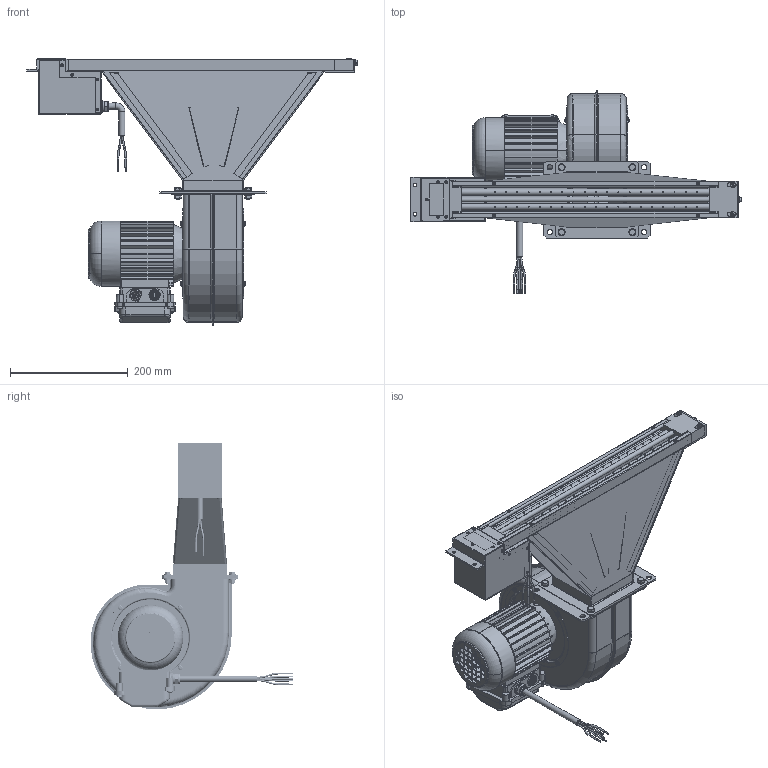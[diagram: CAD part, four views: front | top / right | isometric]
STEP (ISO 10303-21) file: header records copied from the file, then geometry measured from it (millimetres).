
FILE_DESCRIPTION(/* description */ (''),/* implementation_level */ '2;1');
FILE_NAME(/* name */ 'HP-N-EX',/* time_stamp */ '2014-11-04T11:47:27+01:00',/* author */ (''),/* organization */ (''),/* preprocessor_version */ 'ST-DEVELOPER v14',/* originating_system */ 'HiCAD 2012 1702.3 Build 686',/* authorisation */ '');
FILE_SCHEMA (('AUTOMOTIVE_DESIGN { 1 0 10303 214 1 1 1 1 }'));
Products named in the file (6): Root; -; P-SH-N-EX-STAAF_5; MB13SF
Assembly tree (5 placements, depth 3):
  Root
    -
    -
    P-SH-N-EX-STAAF_5
      MB13SF
      MB13SF
Bounding box: 560.5 x 344.34 x 452.85 mm (x, y, z)
Volume: 1166218 mm3; surface area: 1305380 mm2
Topology: 24 solids, 35 shells, 4324 faces, 11734 edges, 7179 vertices
Faces by surface type: cylinder 2066, plane 1710, torus 298, cone 215, sphere 31, bspline 4
Full cylindrical faces by diameter (mm): 1.4 x30, 1.45 x39, 2 x9, 2.387 x4, 3 x51, 3.141 x9, 3.5 x8, 4 x17, 4.019 x1, 4.5 x4, 4.7 x15, 4.773 x4, 4.8 x4, 5 x1, 5.3 x1, 5.5 x3, 6 x14, 6.1 x1, 6.4 x8, 6.5 x4, 7.6 x2, 8 x4, 8.2 x2, 9 x4, 10 x3, 10.4 x1, 10.5 x2, 10.6 x2, 11 x4, 11.4 x1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
Entity records: 291901 total; most frequent: CARTESIAN_POINT 97756, DIRECTION 23673, PRESENTATION_STYLE_ASSIGNMENT 21725, DRAUGHTING_PRE_DEFINED_CURVE_FONT 21702, CURVE_STYLE 21702, OVER_RIDING_STYLED_ITEM 21702, ORIENTED_EDGE 21702, EDGE_CURVE 10836
